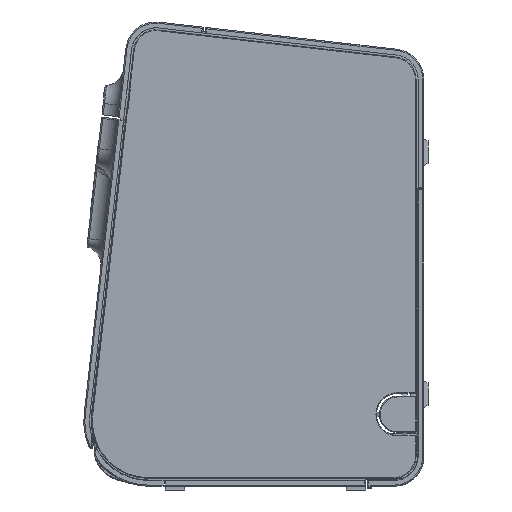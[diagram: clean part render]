
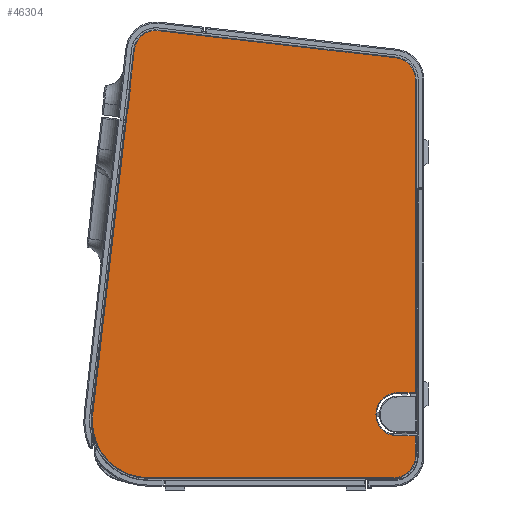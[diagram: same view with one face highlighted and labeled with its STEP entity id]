
A CAD part, left-side view. The second image highlights one B-rep face of the part: STEP entity #46304.
In plain terms, the highlighted planar face has unit normal (-1, 0, 0).
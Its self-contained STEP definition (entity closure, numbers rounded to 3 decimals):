
#23102=CARTESIAN_POINT('',(-26.9,45.245,100.2));
#23103=DIRECTION('',(1.,0.,0.));
#23104=DIRECTION('',(0.,-0.994,-0.113));
#23105=AXIS2_PLACEMENT_3D('',#23102,#23103,#23104);
#23107=DIRECTION('',(0.,0.113,-0.994));
#23108=VECTOR('',#23107,7.649);
#23109=CARTESIAN_POINT('',(-26.9,43.982,107.755));
#23110=LINE('',#23109,#23108);
#23111=CARTESIAN_POINT('',(-26.9,44.38,107.8));
#23112=DIRECTION('',(1.,0.,0.));
#23113=DIRECTION('',(0.,-0.613,0.79));
#23114=AXIS2_PLACEMENT_3D('',#23111,#23112,#23113);
#23116=CARTESIAN_POINT('',(-26.9,32.955,124.082));
#23117=DIRECTION('',(1.,0.,0.));
#23118=DIRECTION('',(0.,0.994,0.113));
#23119=AXIS2_PLACEMENT_3D('',#23116,#23117,#23118);
#23121=DIRECTION('',(0.,-0.994,-0.113));
#23122=VECTOR('',#23121,103.219);
#23123=CARTESIAN_POINT('',(-26.9,31.902,133.322));
#23124=LINE('',#23123,#23122);
#23125=CARTESIAN_POINT('',(-26.9,-69.6,112.397));
#23126=DIRECTION('',(1.,0.,0.));
#23127=DIRECTION('',(0.,-0.113,0.994));
#23128=AXIS2_PLACEMENT_3D('',#23125,#23126,#23127);
#23130=DIRECTION('',(0.,0.,-1.));
#23131=VECTOR('',#23130,135.097);
#23132=CARTESIAN_POINT('',(-26.9,-78.9,112.397));
#23133=LINE('',#23132,#23131);
#23134=DIRECTION('',(0.,1.,0.));
#23135=VECTOR('',#23134,7.7);
#23136=CARTESIAN_POINT('',(-26.9,-78.9,-22.7));
#23137=LINE('',#23136,#23135);
#23138=CARTESIAN_POINT('',(-26.9,-71.2,-32.));
#23139=DIRECTION('',(-1.,0.,0.));
#23140=DIRECTION('',(0.,0.,1.));
#23141=AXIS2_PLACEMENT_3D('',#23138,#23139,#23140);
#23143=DIRECTION('',(0.,-1.,0.));
#23144=VECTOR('',#23143,7.7);
#23145=CARTESIAN_POINT('',(-26.9,-71.2,-41.3));
#23146=LINE('',#23145,#23144);
#23147=DIRECTION('',(0.,0.,1.));
#23148=VECTOR('',#23147,8.7);
#23149=CARTESIAN_POINT('',(-26.9,-78.9,-50.));
#23150=LINE('',#23149,#23148);
#23151=CARTESIAN_POINT('',(-26.9,-69.6,-50.));
#23152=DIRECTION('',(-1.,0.,0.));
#23153=DIRECTION('',(0.,0.,-1.));
#23154=AXIS2_PLACEMENT_3D('',#23151,#23152,#23153);
#23156=DIRECTION('',(0.,-1.,0.));
#23157=VECTOR('',#23156,105.583);
#23158=CARTESIAN_POINT('',(-26.9,35.983,-59.3));
#23159=LINE('',#23158,#23157);
#23160=CARTESIAN_POINT('',(-26.9,35.983,-35.));
#23161=DIRECTION('',(-1.,0.,0.));
#23162=DIRECTION('',(0.,0.994,0.113));
#23163=AXIS2_PLACEMENT_3D('',#23160,#23161,#23162);
#29437=CARTESIAN_POINT('',(-26.9,45.078,
99.837));
#29446=DIRECTION('',(0.,0.113,-0.994));
#29447=VECTOR('',#29446,132.941);
#29448=CARTESIAN_POINT('',(-26.9,45.078,
99.837));
#29449=LINE('',#29448,#29447);
#29621=DIRECTION('',(0.,0.113,-0.994));
#29622=VECTOR('',#29621,17.129);
#29623=CARTESIAN_POINT('',(-26.9,42.195,125.135));
#29624=LINE('',#29623,#29622);
#43436=CARTESIAN_POINT('',(-26.9,-78.9,-50.));
#43437=CARTESIAN_POINT('',(-26.9,-78.9,-41.3));
#43438=VERTEX_POINT('',#43436);
#43439=VERTEX_POINT('',#43437);
#43440=CARTESIAN_POINT('',(-26.9,-69.6,-59.3));
#43441=VERTEX_POINT('',#43440);
#43444=CARTESIAN_POINT('',(-26.9,35.983,-59.3));
#43445=VERTEX_POINT('',#43444);
#43448=CARTESIAN_POINT('',(-26.9,60.127,-32.249));
#43449=VERTEX_POINT('',#43448);
#43496=CARTESIAN_POINT('',(-26.9,42.195,125.135));
#43497=CARTESIAN_POINT('',(-26.9,31.902,133.322));
#43498=VERTEX_POINT('',#43496);
#43499=VERTEX_POINT('',#43497);
#43502=CARTESIAN_POINT('',(-26.9,-70.653,121.637));
#43503=VERTEX_POINT('',#43502);
#43506=CARTESIAN_POINT('',(-26.9,-78.9,112.397));
#43507=VERTEX_POINT('',#43506);
#43508=CARTESIAN_POINT('',(-26.9,-78.9,-22.7));
#43509=VERTEX_POINT('',#43508);
#43518=CARTESIAN_POINT('',(-26.9,-71.2,-41.3));
#43519=VERTEX_POINT('',#43518);
#43526=CARTESIAN_POINT('',(-26.9,-71.2,-22.7));
#43527=VERTEX_POINT('',#43526);
#43878=VERTEX_POINT('',#29437);
#43880=CARTESIAN_POINT('',(-26.9,44.848,100.155));
#43881=VERTEX_POINT('',#43880);
#43884=CARTESIAN_POINT('',(-26.9,43.982,107.755));
#43885=VERTEX_POINT('',#43884);
#43888=CARTESIAN_POINT('',(-26.9,44.134,108.116));
#43889=VERTEX_POINT('',#43888);
#46265=CARTESIAN_POINT('',(-26.9,-82.6,124.));
#46266=DIRECTION('',(1.,0.,0.));
#46267=DIRECTION('',(0.,0.,-1.));
#46268=AXIS2_PLACEMENT_3D('',#46265,#46266,#46267);
#46269=PLANE('',#46268);
#46271=ORIENTED_EDGE('',*,*,#46270,.F.);
#46273=ORIENTED_EDGE('',*,*,#46272,.F.);
#46275=ORIENTED_EDGE('',*,*,#46274,.F.);
#46277=ORIENTED_EDGE('',*,*,#46276,.F.);
#46279=ORIENTED_EDGE('',*,*,#46278,.T.);
#46281=ORIENTED_EDGE('',*,*,#46280,.T.);
#46283=ORIENTED_EDGE('',*,*,#46282,.T.);
#46285=ORIENTED_EDGE('',*,*,#46284,.T.);
#46287=ORIENTED_EDGE('',*,*,#46286,.T.);
#46289=ORIENTED_EDGE('',*,*,#46288,.T.);
#46291=ORIENTED_EDGE('',*,*,#46290,.T.);
#46293=ORIENTED_EDGE('',*,*,#46292,.F.);
#46295=ORIENTED_EDGE('',*,*,#46294,.F.);
#46297=ORIENTED_EDGE('',*,*,#46296,.F.);
#46299=ORIENTED_EDGE('',*,*,#46298,.F.);
#46301=ORIENTED_EDGE('',*,*,#46300,.F.);
#46302=EDGE_LOOP('',(#46271,#46273,#46275,#46277,#46279,#46281,#46283,#46285,
#46287,#46289,#46291,#46293,#46295,#46297,#46299,#46301));
#46303=FACE_OUTER_BOUND('',#46302,.F.);
#23106=CIRCLE('',#23105,0.4);
#23115=CIRCLE('',#23114,0.4);
#23120=CIRCLE('',#23119,9.3);
#23129=CIRCLE('',#23128,9.3);
#23142=CIRCLE('',#23141,9.3);
#23155=CIRCLE('',#23154,9.3);
#23164=CIRCLE('',#23163,24.3);
#46270=EDGE_CURVE('',#43881,#43878,#23106,.T.);
#46272=EDGE_CURVE('',#43885,#43881,#23110,.T.);
#46274=EDGE_CURVE('',#43889,#43885,#23115,.T.);
#46276=EDGE_CURVE('',#43498,#43889,#29624,.T.);
#46278=EDGE_CURVE('',#43498,#43499,#23120,.T.);
#46280=EDGE_CURVE('',#43499,#43503,#23124,.T.);
#46282=EDGE_CURVE('',#43503,#43507,#23129,.T.);
#46284=EDGE_CURVE('',#43507,#43509,#23133,.T.);
#46286=EDGE_CURVE('',#43509,#43527,#23137,.T.);
#46288=EDGE_CURVE('',#43527,#43519,#23142,.T.);
#46290=EDGE_CURVE('',#43519,#43439,#23146,.T.);
#46292=EDGE_CURVE('',#43438,#43439,#23150,.T.);
#46294=EDGE_CURVE('',#43441,#43438,#23155,.T.);
#46296=EDGE_CURVE('',#43445,#43441,#23159,.T.);
#46298=EDGE_CURVE('',#43449,#43445,#23164,.T.);
#46300=EDGE_CURVE('',#43878,#43449,#29449,.T.);
#46304=ADVANCED_FACE('',(#46303),#46269,.F.);
